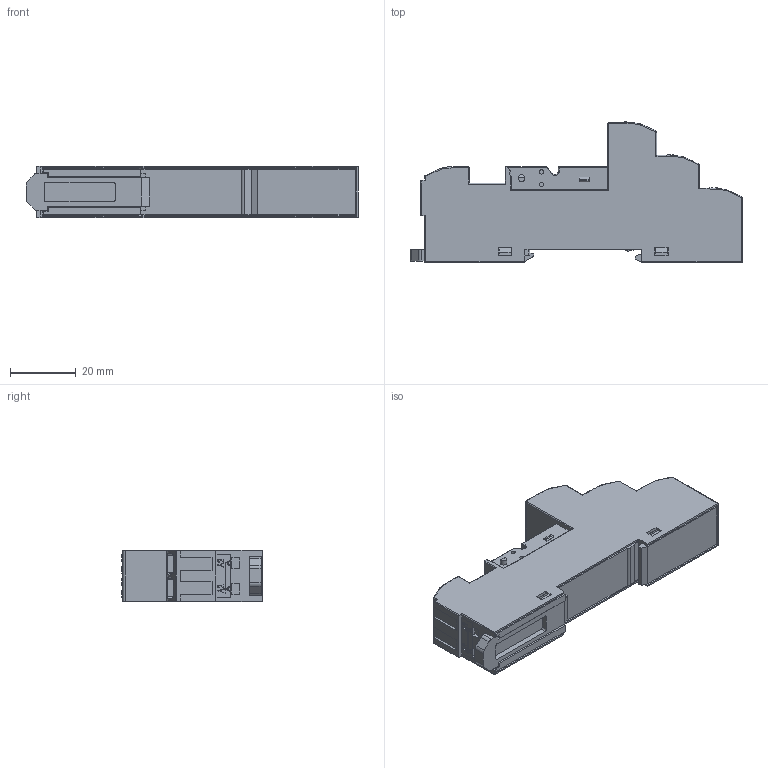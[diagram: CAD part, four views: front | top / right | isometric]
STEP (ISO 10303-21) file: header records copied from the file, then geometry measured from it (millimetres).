
FILE_DESCRIPTION (( 'STEP AP203' ), '1' );
FILE_NAME ('SRC08-ST 俋倛.STEP', '2023-05-13T06:15:11', ( '' ), ( '' ), 'SwSTEP 2.0', 'SolidWorks 2018', '' );
FILE_SCHEMA (( 'CONFIG_CONTROL_DESIGN' ));
Length unit declared in the file: millimetre
Products named in the file (1): SRC08-ST 俋倛
Bounding box: 101.2 x 42.7 x 15.85 mm (x, y, z)
Volume: 41963.5 mm3; surface area: 13016.6 mm2
Topology: 1 solids, 4 shells, 1328 faces, 3733 edges, 2442 vertices
Faces by surface type: plane 791, cylinder 396, cone 53, bspline 48, torus 26, sphere 14
Entity records: 44675 total; most frequent: CARTESIAN_POINT 12094, ORIENTED_EDGE 7438, DIRECTION 6019, EDGE_CURVE 3719, LINE 2497, VECTOR 2497, VERTEX_POINT 2442, AXIS2_PLACEMENT_3D 1761
